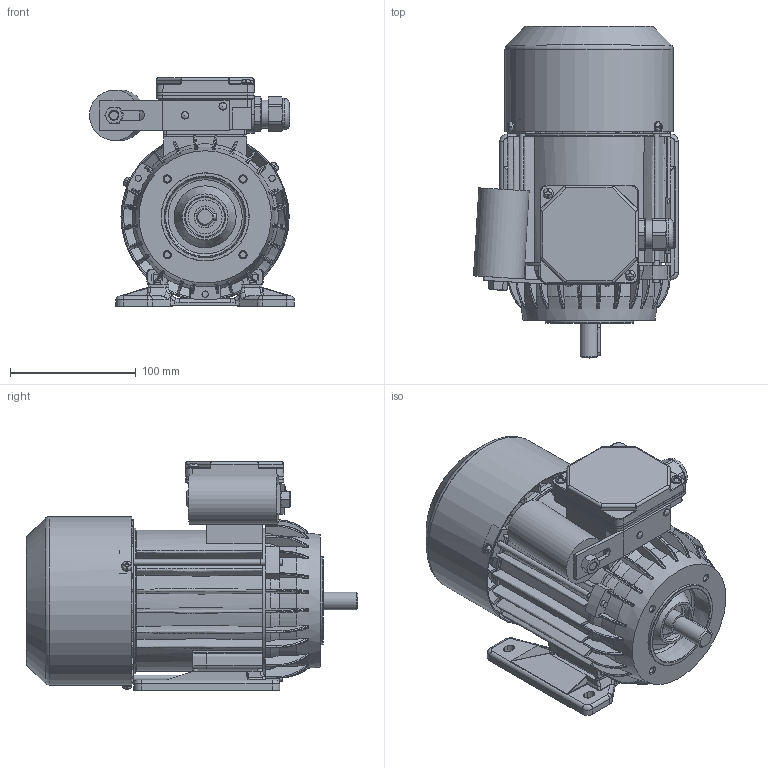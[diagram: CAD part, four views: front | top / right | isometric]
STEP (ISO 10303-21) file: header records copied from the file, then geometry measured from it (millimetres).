
FILE_DESCRIPTION( ( 'Unknown' ), '1' );
FILE_NAME( 'G:/Poczta Tk-1/STP/w.m.71/SEh71/SELh71-C2.stp', 'Unknown', ( 'K. Szlosek' ), ( 'BESEL S.A.' ), 'PSStep 17.0.49', 'Unknown', ' ' );
FILE_SCHEMA( ( 'AUTOMOTIVE_DESIGN { 1 0 10303 214 1 1 1 1 }' ) );
Length unit declared in the file: millimetre
Products named in the file (35): skrznka zaciskowa jednofazowa ; K4-2820 Uszczelka nr 2 Sh71,80; K2-1131 Podstawa skrzynki zaciskowej jednofazowa; K4-2999 Uchwyt kondensatora; Nit 4x12 po skróceniu; nakrętka M8; K4-0898 Tulejka uszczelniająca; Dławnica M20x1,5; K2-0860 Pokrywka skrzynki zaciskowej; Assem1; K3-2975 Osłona przewietrznika Sh71-.B,C; K4-2320 Uszczelka nr 1 Sh71,80; K1-1194 Kadłub z zamkami Sh71-.C; K3-6469 Tarcza łożyskowa P S(E,M)h71-B,C; Wpust A5x5x25; Wkręt samogwintujący M4x8; Nitokołek A 2x6; k3-4489 Wał SKh71 x-2C1; Wkręt samogwintujący M4x16; Kondensator zb 11-16uF Comar; K3-3984 Przewietrznik Sh71; Łożysko 6203; Śruba ściągająca E_M5x130; Tabliczka znamionowa 32x44; K1-1245 Tarcza kołnierzowa B14_2 w.m. 71; K1-0448 Łapa Sh71-.. 
Assembly tree (51 placements, depth 3):
  Assem1
    K3-2975 Osłona przewietrznika Sh71-.B,C
    K4-2320 Uszczelka nr 1 Sh71,80
    K1-1194 Kadłub z zamkami Sh71-.C
    K3-6469 Tarcza łożyskowa P S(E,M)h71-B,C
    Wpust A5x5x25
    Wkręt samogwintujący M4x8  x3
    Nitokołek A 2x6  x2
    k3-4489 Wał SKh71 x-2C1
    Wkręt samogwintujący M4x16  x2
    Kondensator zb 11-16uF Comar
    K3-3984 Przewietrznik Sh71
    Łożysko 6203  x2
    Łożysko 6203  x2
    Łożysko 6203  x2
    Łożysko 6203  x2
    Łożysko 6203  x2
    Łożysko 6203  x2
    Łożysko 6203  x2
    Łożysko 6203  x2
    Łożysko 6203  x2
    Łożysko 6203  x2
    Śruba ściągająca E_M5x130  x3
    Tabliczka znamionowa 32x44
    K1-1245 Tarcza kołnierzowa B14_2 w.m. 71
    K1-0448 Łapa Sh71-.. 
    skrznka zaciskowa jednofazowa 
      K4-2820 Uszczelka nr 2 Sh71,80
      K2-1131 Podstawa skrzynki zaciskowej jednofazowa
      K4-2999 Uchwyt kondensatora
      Nit 4x12 po skróceniu  x2
      nakrętka M8
      K4-0898 Tulejka uszczelniająca
      Dławnica M20x1,5
      K2-0860 Pokrywka skrzynki zaciskowej
Bounding box: 162.77 x 263.5 x 181.5 mm (x, y, z)
Volume: 817718.9 mm3; surface area: 496494.2 mm2
Topology: 50 solids, 66 shells, 2817 faces, 7625 edges, 4881 vertices
Faces by surface type: plane 1110, cylinder 809, bspline 447, cone 207, torus 200, sphere 44
Full cylindrical faces by diameter (mm): 2 x2, 2.4 x2, 3 x1, 3.7 x7, 3.8 x4, 4 x7, 4.3 x2, 4.5 x3, 4.6 x3, 4.8 x4, 4.917 x4, 5 x10, 5.5 x3, 5.8 x4, 6 x2, 6.5 x1, 6.647 x1, 7 x1, 8 x10, 10 x2, 14 x1, 15.9 x1, 16.1 x1, 16.5 x1, 17 x4, 17.4 x2, 18.376 x1, 18.38 x1, 20 x1, 22 x2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
Entity records: 170929 total; most frequent: CARTESIAN_POINT 86640, ORIENTED_EDGE 13692, DIRECTION 12059, EDGE_CURVE 6846, AXIS2_PLACEMENT_3D 4612, VERTEX_POINT 4537, EDGE_LOOP 3097, LINE 2835
